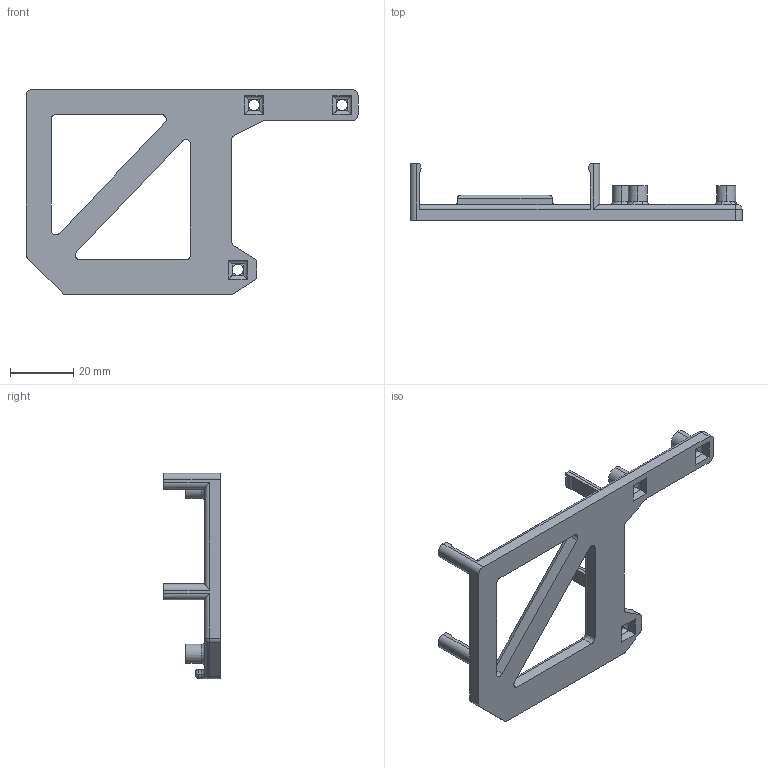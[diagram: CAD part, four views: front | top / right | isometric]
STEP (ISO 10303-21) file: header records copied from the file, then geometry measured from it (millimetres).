
FILE_DESCRIPTION (( 'STEP AP214' ), '1' );
FILE_NAME ('arduino-proto.STEP', '2012-07-10T05:08:34', ( '' ), ( '' ), 'SwSTEP 2.0', 'SolidWorks 2010', '' );
FILE_SCHEMA (( 'AUTOMOTIVE_DESIGN' ));
Length unit declared in the file: millimetre
Products named in the file (1): arduino-proto
Bounding box: 105 x 18 x 65 mm (x, y, z)
Volume: 16244.8 mm3; surface area: 10495.3 mm2
Topology: 1 solids, 1 shells, 174 faces, 436 edges, 267 vertices
Faces by surface type: cylinder 83, plane 59, torus 26, bspline 6
Entity records: 6013 total; most frequent: CARTESIAN_POINT 1785, DIRECTION 909, ORIENTED_EDGE 868, EDGE_CURVE 434, AXIS2_PLACEMENT_3D 339, VERTEX_POINT 267, VECTOR 231, LINE 231
